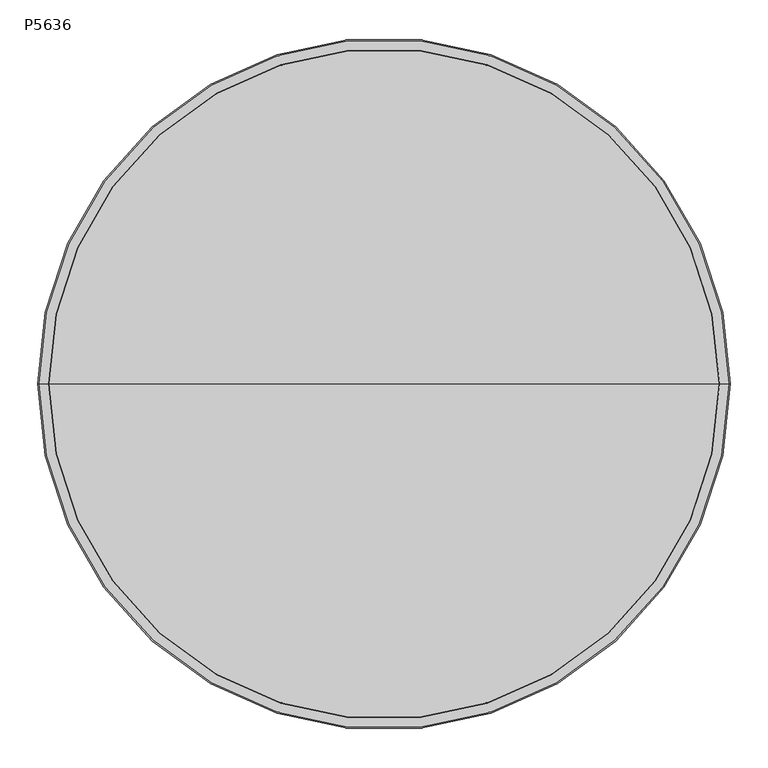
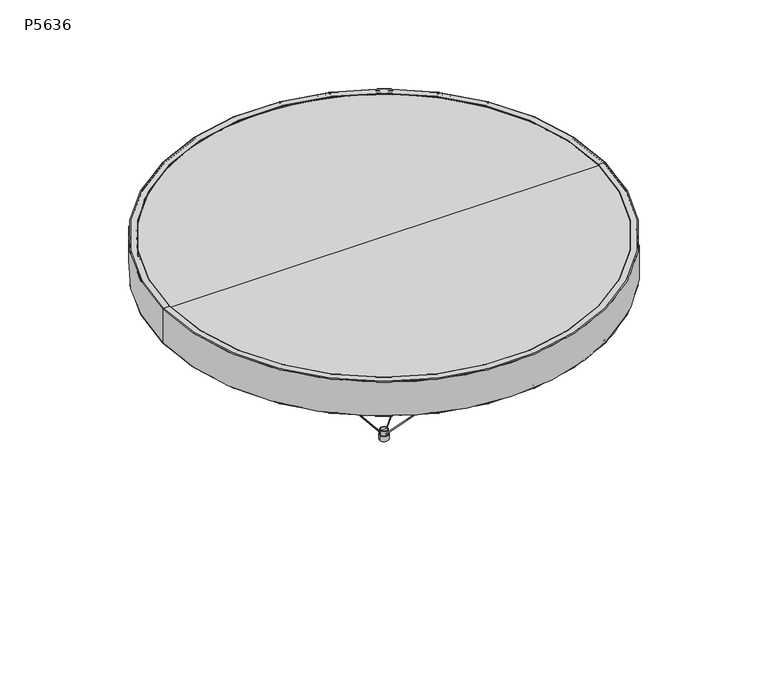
"""IFC4 building model written with IfcOpenShell, lengths in millimetres: light fixture geometry, Impact_Arch_Ltg-waf.r.3 : P5636."""

from ifc_helpers import new_model, si_unit, point, frame, origin, place, context, project, spatial, polyline, circle_curve, ellipse_curve, trimmed, outline, extrude, source, transform, mapped, element, save
from ifc_brep_helpers import plane_surface, cylinder_surface, revolved_surface, advanced_brep


def p5636_938da879(model_context):
    return source(origin(), model_context, "Body", "SolidModel", [
        extrude(outline(polyline([(-296.904285, 169.2257198), (-302.2657284, 172.2948892), (-301.5940433, 173.4682366), (-296.2325999, 170.3990672), (-296.904285, 169.2257198)])), frame((0.0, 0.0, 361.70042), z_axis=(0.0, 0.0, 1.0), x_axis=(1.0, 0.0, 0.0)), (0.0, 0.0, 1.0), 10.7885392),
        advanced_brep(
        [(-294.1449367, 168.3838782, 368.9999313), (-304.1306911, 174.100244, 368.9999313), (-304.1306911, 174.100244, 380.4180289), (-294.1449367, 168.3838782, 380.4180289), (-294.5817908, 168.6339562, 368.4965621), (-303.693837, 173.8501659, 368.4965621), (-299.1378139, 171.2420611, 368.4965621), (-299.1378139, 171.2420611, 380.4180289)],
        [
            (0, 1, circle_curve(frame((-299.1378139, 171.2420611, 368.9999313), z_axis=(0.0, 0.0, 1.0), x_axis=(-0.8678602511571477, 0.49680839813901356, 0.0)), 5.7530889)),
            (1, 2),
            (2, 3, circle_curve(frame((-299.1378139, 171.2420611, 380.4180289), z_axis=(0.0, 0.0, -1.0), x_axis=(-0.8678602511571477, 0.49680839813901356, 0.0)), 5.7530889)),
            (3, 0),
            (1, 0, circle_curve(frame((-299.1378139, 171.2420611, 368.9999313), z_axis=(0.0, 0.0, 1.0), x_axis=(-0.8678602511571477, 0.49680839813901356, 0.0)), 5.7530889)),
            (3, 2, circle_curve(frame((-299.1378139, 171.2420611, 380.4180289), z_axis=(0.0, 0.0, -1.0), x_axis=(-0.8678602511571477, 0.49680839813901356, 0.0)), 5.7530889)),
            (4, 5, circle_curve(frame((-299.1378139, 171.2420611, 368.4965621), z_axis=(0.0, 0.0, 1.0), x_axis=(-0.8678602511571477, 0.49680839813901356, 0.0)), 5.2497197)),
            (5, 1, circle_curve(frame((-303.693837, 173.8501659, 368.9999313), z_axis=(0.49680839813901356, 0.8678602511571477, 0.0), x_axis=(0.8678602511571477, -0.49680839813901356, 0.0)), 0.5033692)),
            (0, 4, circle_curve(frame((-294.5817908, 168.6339562, 368.9999313), z_axis=(0.49680839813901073, 0.8678602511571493, 0.0), x_axis=(-0.8678602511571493, 0.49680839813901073, 0.0)), 0.5033692)),
            (5, 4, circle_curve(frame((-299.1378139, 171.2420611, 368.4965621), z_axis=(0.0, 0.0, 1.0), x_axis=(-0.8678602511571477, 0.49680839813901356, 0.0)), 5.2497197)),
            (6, 5),
            (4, 6),
            (2, 7),
            (7, 3),
        ],
        [
            cylinder_surface(frame((-299.1378139, 171.2420611, 382.2748214), z_axis=(0.0, 0.0, -1.0), x_axis=(-0.8678602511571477, 0.49680839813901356, 0.0)), 5.7530889),
            revolved_surface(trimmed(ellipse_curve(frame((-303.693837, 173.8501659, 368.9999313), z_axis=(-0.49680839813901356, -0.8678602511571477, 0.0), x_axis=(0.8678602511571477, -0.49680839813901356, 0.0)), 0.5033692, 0.5033692), [point((-304.1306911, 174.100244, 368.9999313))], [point((-303.693837, 173.8501659, 368.4965621))], True, "CARTESIAN"), (-299.1378139, 171.2420611, 382.2748214), (0.0, 0.0, -1.0)),
            plane_surface(frame((-299.1378139, 171.2420611, 368.4965621), z_axis=(0.0, 0.0, -1.0), x_axis=(-0.8678602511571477, 0.49680839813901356, 0.0))),
            plane_surface(frame((-299.1378139, 171.2420611, 380.4180289), z_axis=(0.0, 0.0, 1.0), x_axis=(-0.8678602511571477, 0.49680839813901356, 0.0))),
        ],
        [
            (0, [[1, 2, 3, 4]]),
            (0, [[5, -4, 6, -2]]),
            (1, [[7, 8, -1, 9]]),
            (1, [[10, -9, -5, -8]]),
            (2, [[11, -7, 12]]),
            (2, [[-12, -10, -11]]),
            (3, [[-3, 13, 14]]),
            (3, [[-6, -14, -13]]),
        ],
    ),
        advanced_brep(
        [(-0.4909162, 0.281026, 14.2396458), (0.4909162, -0.281026, 15.3533386), (0.0, 0.0, 14.7964922), (-277.3987743, 158.7975029, 338.361012), (-276.4169522, 158.2354567, 339.4746931), (-276.9078632, 158.5164798, 338.9178526)],
        [
            (0, 1, circle_curve(frame((0.0, 0.0, 14.7964922), z_axis=(0.60883123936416, -0.3485267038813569, -0.7126385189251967), x_axis=(0.6184706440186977, -0.35404480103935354, 0.7015314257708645)), 0.7937583)),
            (1, 2),
            (2, 0),
            (1, 0, circle_curve(frame((0.0, 0.0, 14.7964922), z_axis=(0.60883123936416, -0.3485267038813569, -0.7126385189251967), x_axis=(0.6184706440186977, -0.35404480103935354, 0.7015314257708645)), 0.7937583)),
            (3, 4, circle_curve(frame((-276.9078632, 158.5164798, 338.9178526), z_axis=(0.60883123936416, -0.3485267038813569, -0.7126385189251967), x_axis=(0.6184706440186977, -0.35404480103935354, 0.7015314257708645)), 0.79375)),
            (4, 1),
            (0, 3),
            (4, 3, circle_curve(frame((-276.9078632, 158.5164798, 338.9178526), z_axis=(0.60883123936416, -0.3485267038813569, -0.7126385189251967), x_axis=(0.6184706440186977, -0.35404480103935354, 0.7015314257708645)), 0.79375)),
            (5, 4),
            (3, 5),
        ],
        [
            plane_surface(frame((0.0, 0.0, 14.7964922), z_axis=(0.60883123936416, -0.3485267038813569, -0.7126385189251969), x_axis=(0.6184706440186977, -0.35404480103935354, 0.7015314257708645))),
            cylinder_surface(frame((-380.1757258, 217.6323816, 459.7931491), z_axis=(-0.60883123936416, 0.3485267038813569, 0.7126385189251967), x_axis=(0.6184706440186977, -0.35404480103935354, 0.7015314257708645)), 0.79375),
            plane_surface(frame((-276.9078632, 158.5164798, 338.9178526), z_axis=(-0.60883123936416, 0.3485267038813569, 0.7126385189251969), x_axis=(0.6184706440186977, -0.35404480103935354, 0.7015314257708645))),
        ],
        [
            (0, [[1, 2, 3]]),
            (0, [[4, -3, -2]]),
            (1, [[5, 6, -1, 7]]),
            (1, [[8, -7, -4, -6]]),
            (2, [[9, -5, 10]]),
            (2, [[-10, -8, -9]]),
        ],
    ),
        advanced_brep(
        [(-278.0124132, 159.1487817, 337.6649613), (-275.8033133, 157.8841779, 340.1707438), (-276.9078632, 158.5164798, 338.9178526), (-282.8450111, 161.9152124, 343.3215295), (-280.6359113, 160.6506086, 345.8273121), (-281.7404612, 161.2829105, 344.5744208)],
        [
            (0, 1, circle_curve(frame((-276.9078632, 158.5164798, 338.9178526), z_axis=(0.6088312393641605, -0.34852670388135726, -0.712638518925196), x_axis=(0.6184706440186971, -0.35404480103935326, 0.7015314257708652)), 1.7859375)),
            (1, 2),
            (2, 0),
            (1, 0, circle_curve(frame((-276.9078632, 158.5164798, 338.9178526), z_axis=(0.6088312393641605, -0.34852670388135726, -0.712638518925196), x_axis=(0.6184706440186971, -0.35404480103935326, 0.7015314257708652)), 1.7859375)),
            (3, 4, circle_curve(frame((-281.7404612, 161.2829105, 344.5744208), z_axis=(0.6088312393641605, -0.34852670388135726, -0.712638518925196), x_axis=(0.6184706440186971, -0.35404480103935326, 0.7015314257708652)), 1.7859375)),
            (4, 1),
            (0, 3),
            (4, 3, circle_curve(frame((-281.7404612, 161.2829105, 344.5744208), z_axis=(0.6088312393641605, -0.34852670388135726, -0.712638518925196), x_axis=(0.6184706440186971, -0.35404480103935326, 0.7015314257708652)), 1.7859375)),
            (5, 4),
            (3, 5),
        ],
        [
            plane_surface(frame((-276.9078632, 158.5164798, 338.9178526), z_axis=(0.6088312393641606, -0.3485267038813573, -0.7126385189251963), x_axis=(0.6184706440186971, -0.35404480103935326, 0.7015314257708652))),
            cylinder_surface(frame((-362.9536305, 207.7735575, 439.6346427), z_axis=(-0.6088312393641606, 0.3485267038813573, 0.7126385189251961), x_axis=(0.6184706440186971, -0.35404480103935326, 0.7015314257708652)), 1.7859375),
            plane_surface(frame((-281.7404612, 161.2829105, 344.5744208), z_axis=(-0.6088312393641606, 0.3485267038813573, 0.7126385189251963), x_axis=(0.6184706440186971, -0.35404480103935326, 0.7015314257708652))),
        ],
        [
            (0, [[1, 2, 3]]),
            (0, [[4, -3, -2]]),
            (1, [[5, 6, -1, 7]]),
            (1, [[8, -7, -4, -6]]),
            (2, [[9, -5, 10]]),
            (2, [[-10, -8, -9]]),
        ],
    ),
        advanced_brep(
        [(-284.9313832, 163.1095604, 340.9549571), (-278.5495392, 159.4562606, 348.1938845), (-281.7404612, 161.2829105, 344.5744208), (-302.3287359, 173.068711, 361.3186028), (-295.9468919, 169.4154112, 368.5575302), (-299.1378139, 171.2420611, 364.9380665)],
        [
            (0, 1, circle_curve(frame((-281.7404612, 161.2829105, 344.5744208), z_axis=(0.6088312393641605, -0.34852670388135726, -0.712638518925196), x_axis=(0.6184706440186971, -0.3540448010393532, 0.7015314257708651)), 5.159375)),
            (1, 2),
            (2, 0),
            (1, 0, circle_curve(frame((-281.7404612, 161.2829105, 344.5744208), z_axis=(0.6088312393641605, -0.34852670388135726, -0.712638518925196), x_axis=(0.6184706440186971, -0.3540448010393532, 0.7015314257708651)), 5.159375)),
            (3, 4, circle_curve(frame((-299.1378139, 171.2420611, 364.9380665), z_axis=(0.6088312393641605, -0.34852670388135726, -0.712638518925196), x_axis=(0.6184706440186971, -0.3540448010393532, 0.7015314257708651)), 5.159375)),
            (4, 1),
            (0, 3),
            (4, 3, circle_curve(frame((-299.1378139, 171.2420611, 364.9380665), z_axis=(0.6088312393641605, -0.34852670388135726, -0.712638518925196), x_axis=(0.6184706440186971, -0.3540448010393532, 0.7015314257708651)), 5.159375)),
            (5, 4),
            (3, 5),
        ],
        [
            plane_surface(frame((-281.7404612, 161.2829105, 344.5744208), z_axis=(0.6088312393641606, -0.3485267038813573, -0.7126385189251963), x_axis=(0.6184706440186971, -0.35404480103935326, 0.7015314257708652))),
            cylinder_surface(frame((-269.0644376, 154.0264945, 329.7371028), z_axis=(-0.6088312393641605, 0.34852670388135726, 0.712638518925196), x_axis=(0.6184706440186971, -0.3540448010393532, 0.7015314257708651)), 5.159375),
            plane_surface(frame((-299.1378139, 171.2420611, 364.9380665), z_axis=(-0.6088312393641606, 0.3485267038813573, 0.7126385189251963), x_axis=(0.6184706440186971, -0.35404480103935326, 0.7015314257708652))),
        ],
        [
            (0, [[1, 2, 3]]),
            (0, [[4, -3, -2]]),
            (1, [[5, 6, -1, 7]]),
            (1, [[8, -7, -4, -6]]),
            (2, [[9, -5, 10]]),
            (2, [[-10, -8, -9]]),
        ],
    ),
        extrude(outline(polyline([(294.3688179, 173.5986685), (299.6960381, 176.726863), (300.3806409, 175.5610054), (295.0534207, 172.4328109), (294.3688179, 173.5986685)])), frame((0.0, 0.0, 361.70042), z_axis=(0.0, 0.0, 1.0), x_axis=(1.0, 0.0, 0.0)), (0.0, 0.0, 1.0), 10.7885392),
        advanced_brep(
        [(292.2673496, 171.6221738, 368.9999313), (302.1893629, 177.4484746, 368.9999313), (302.1893629, 177.4484746, 380.4180289), (292.2673496, 171.6221738, 380.4180289), (292.7014152, 171.8770613, 368.4965621), (301.7552973, 177.1935872, 368.4965621), (297.2283563, 174.5353242, 368.4965621), (297.2283563, 174.5353242, 380.4180289)],
        [
            (0, 1, circle_curve(frame((297.2283563, 174.5353242, 368.9999313), z_axis=(0.0, 0.0, 1.0), x_axis=(0.862320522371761, 0.5063628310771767, 0.0)), 5.7530889)),
            (1, 2),
            (2, 3, circle_curve(frame((297.2283563, 174.5353242, 380.4180289), z_axis=(0.0, 0.0, -1.0), x_axis=(0.862320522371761, 0.5063628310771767, 0.0)), 5.7530889)),
            (3, 0),
            (1, 0, circle_curve(frame((297.2283563, 174.5353242, 368.9999313), z_axis=(0.0, 0.0, 1.0), x_axis=(0.862320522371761, 0.5063628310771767, 0.0)), 5.7530889)),
            (3, 2, circle_curve(frame((297.2283563, 174.5353242, 380.4180289), z_axis=(0.0, 0.0, -1.0), x_axis=(0.862320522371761, 0.5063628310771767, 0.0)), 5.7530889)),
            (4, 5, circle_curve(frame((297.2283563, 174.5353242, 368.4965621), z_axis=(0.0, 0.0, 1.0), x_axis=(0.862320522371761, 0.5063628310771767, 0.0)), 5.2497197)),
            (5, 1, circle_curve(frame((301.7552973, 177.1935872, 368.9999313), z_axis=(0.5063628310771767, -0.862320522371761, 0.0), x_axis=(-0.862320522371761, -0.5063628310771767, 0.0)), 0.5033692)),
            (0, 4, circle_curve(frame((292.7014152, 171.8770613, 368.9999313), z_axis=(0.5063628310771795, -0.8623205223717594, 0.0), x_axis=(0.8623205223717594, 0.5063628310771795, 0.0)), 0.5033692)),
            (5, 4, circle_curve(frame((297.2283563, 174.5353242, 368.4965621), z_axis=(0.0, 0.0, 1.0), x_axis=(0.862320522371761, 0.5063628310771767, 0.0)), 5.2497197)),
            (6, 5),
            (4, 6),
            (2, 7),
            (7, 3),
        ],
        [
            cylinder_surface(frame((297.2283563, 174.5353242, 382.2748214), z_axis=(0.0, 0.0, -1.0), x_axis=(0.862320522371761, 0.5063628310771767, 0.0)), 5.7530889),
            revolved_surface(trimmed(ellipse_curve(frame((301.7552973, 177.1935872, 368.9999313), z_axis=(-0.5063628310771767, 0.862320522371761, 0.0), x_axis=(-0.862320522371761, -0.5063628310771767, 0.0)), 0.5033692, 0.5033692), [point((302.1893629, 177.4484746, 368.9999313))], [point((301.7552973, 177.1935872, 368.4965621))], True, "CARTESIAN"), (297.2283563, 174.5353242, 382.2748214), (0.0, 0.0, -1.0)),
            plane_surface(frame((297.2283563, 174.5353242, 368.4965621), z_axis=(0.0, 0.0, -1.0000000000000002), x_axis=(0.862320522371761, 0.5063628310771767, 0.0))),
            plane_surface(frame((297.2283563, 174.5353242, 380.4180289), z_axis=(0.0, 0.0, 1.0000000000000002), x_axis=(0.862320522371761, 0.5063628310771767, 0.0))),
        ],
        [
            (0, [[1, 2, 3, 4]]),
            (0, [[5, -4, 6, -2]]),
            (1, [[7, 8, -1, 9]]),
            (1, [[10, -9, -5, -8]]),
            (2, [[11, -7, 12]]),
            (2, [[-12, -10, -11]]),
            (3, [[-3, 13, 14]]),
            (3, [[-6, -14, -13]]),
        ],
    ),
        advanced_brep(
        [(0.4877826, 0.2864306, 14.2396458), (-0.4877826, -0.2864306, 15.3533386), (0.0, 0.0, 14.7964922), (275.6280814, 161.8514369, 338.361012), (274.6525265, 161.2785817, 339.4746931), (275.1403039, 161.5650093, 338.9178526)],
        [
            (0, 1, circle_curve(frame((0.0, 0.0, 14.7964922), z_axis=(-0.6049449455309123, -0.35522943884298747, -0.7126385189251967), x_axis=(-0.6145228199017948, -0.3608536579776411, 0.7015314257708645)), 0.7937583)),
            (1, 2),
            (2, 0),
            (1, 0, circle_curve(frame((0.0, 0.0, 14.7964922), z_axis=(-0.6049449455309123, -0.35522943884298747, -0.7126385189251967), x_axis=(-0.6145228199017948, -0.3608536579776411, 0.7015314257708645)), 0.7937583)),
            (3, 4, circle_curve(frame((275.1403039, 161.5650093, 338.9178526), z_axis=(-0.6049449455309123, -0.35522943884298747, -0.7126385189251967), x_axis=(-0.6145228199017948, -0.3608536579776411, 0.7015314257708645)), 0.79375)),
            (4, 1),
            (0, 3),
            (4, 3, circle_curve(frame((275.1403039, 161.5650093, 338.9178526), z_axis=(-0.6049449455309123, -0.35522943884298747, -0.7126385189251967), x_axis=(-0.6145228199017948, -0.3608536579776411, 0.7015314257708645)), 0.79375)),
            (5, 4),
            (3, 5),
        ],
        [
            plane_surface(frame((0.0, 0.0, 14.7964922), z_axis=(-0.6049449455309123, -0.35522943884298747, -0.7126385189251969), x_axis=(-0.6145228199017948, -0.3608536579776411, 0.7015314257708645))),
            cylinder_surface(frame((377.7489867, 221.817806, 459.7931491), z_axis=(0.6049449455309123, 0.35522943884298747, 0.7126385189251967), x_axis=(-0.6145228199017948, -0.3608536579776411, 0.7015314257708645)), 0.79375),
            plane_surface(frame((275.1403039, 161.5650093, 338.9178526), z_axis=(0.6049449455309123, 0.35522943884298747, 0.7126385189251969), x_axis=(-0.6145228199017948, -0.3608536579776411, 0.7015314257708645))),
        ],
        [
            (0, [[1, 2, 3]]),
            (0, [[4, -3, -2]]),
            (1, [[5, 6, -1, 7]]),
            (1, [[8, -7, -4, -6]]),
            (2, [[9, -5, 10]]),
            (2, [[-10, -8, -9]]),
        ],
    ),
        advanced_brep(
        [(276.2378033, 162.2094714, 337.6649613), (274.0428046, 160.9205473, 340.1707438), (275.1403039, 161.5650093, 338.9178526), (281.0395538, 165.0291051, 343.3215295), (278.8445551, 163.7401809, 345.8273121), (279.9420545, 164.384643, 344.5744208)],
        [
            (0, 1, circle_curve(frame((275.1403039, 161.5650093, 338.9178526), z_axis=(-0.6049449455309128, -0.3552294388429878, -0.712638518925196), x_axis=(-0.6145228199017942, -0.3608536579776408, 0.7015314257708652)), 1.7859375)),
            (1, 2),
            (2, 0),
            (1, 0, circle_curve(frame((275.1403039, 161.5650093, 338.9178526), z_axis=(-0.6049449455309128, -0.3552294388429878, -0.712638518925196), x_axis=(-0.6145228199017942, -0.3608536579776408, 0.7015314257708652)), 1.7859375)),
            (3, 4, circle_curve(frame((279.9420545, 164.384643, 344.5744208), z_axis=(-0.6049449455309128, -0.3552294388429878, -0.712638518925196), x_axis=(-0.6145228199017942, -0.3608536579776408, 0.7015314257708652)), 1.7859375)),
            (4, 1),
            (0, 3),
            (4, 3, circle_curve(frame((279.9420545, 164.384643, 344.5744208), z_axis=(-0.6049449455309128, -0.3552294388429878, -0.712638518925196), x_axis=(-0.6145228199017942, -0.3608536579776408, 0.7015314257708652)), 1.7859375)),
            (5, 4),
            (3, 5),
        ],
        [
            plane_surface(frame((275.1403039, 161.5650093, 338.9178526), z_axis=(-0.6049449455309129, -0.35522943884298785, -0.7126385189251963), x_axis=(-0.6145228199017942, -0.3608536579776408, 0.7015314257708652))),
            cylinder_surface(frame((360.6368235, 211.7693807, 439.6346427), z_axis=(0.6049449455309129, 0.35522943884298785, 0.7126385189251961), x_axis=(-0.6145228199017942, -0.3608536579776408, 0.7015314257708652)), 1.7859375),
            plane_surface(frame((279.9420545, 164.384643, 344.5744208), z_axis=(0.6049449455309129, 0.35522943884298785, 0.7126385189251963), x_axis=(-0.6145228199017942, -0.3608536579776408, 0.7015314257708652))),
        ],
        [
            (0, [[1, 2, 3]]),
            (0, [[4, -3, -2]]),
            (1, [[5, 6, -1, 7]]),
            (1, [[8, -7, -4, -6]]),
            (2, [[9, -5, 10]]),
            (2, [[-10, -8, -9]]),
        ],
    ),
        advanced_brep(
        [(283.1126081, 166.2464224, 340.9549571), (276.7715008, 162.5228637, 348.1938845), (279.9420545, 164.384643, 344.5744208), (300.3989099, 176.3971036, 361.3186028), (294.0578026, 172.6735449, 368.5575302), (297.2283563, 174.5353242, 364.9380665)],
        [
            (0, 1, circle_curve(frame((279.9420545, 164.384643, 344.5744208), z_axis=(-0.6049449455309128, -0.3552294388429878, -0.712638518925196), x_axis=(-0.6145228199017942, -0.36085365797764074, 0.7015314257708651)), 5.159375)),
            (1, 2),
            (2, 0),
            (1, 0, circle_curve(frame((279.9420545, 164.384643, 344.5744208), z_axis=(-0.6049449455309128, -0.3552294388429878, -0.712638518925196), x_axis=(-0.6145228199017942, -0.36085365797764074, 0.7015314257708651)), 5.159375)),
            (3, 4, circle_curve(frame((297.2283563, 174.5353242, 364.9380665), z_axis=(-0.6049449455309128, -0.3552294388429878, -0.712638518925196), x_axis=(-0.6145228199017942, -0.36085365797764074, 0.7015314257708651)), 5.159375)),
            (4, 1),
            (0, 3),
            (4, 3, circle_curve(frame((297.2283563, 174.5353242, 364.9380665), z_axis=(-0.6049449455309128, -0.3552294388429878, -0.712638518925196), x_axis=(-0.6145228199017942, -0.36085365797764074, 0.7015314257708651)), 5.159375)),
            (5, 4),
            (3, 5),
        ],
        [
            plane_surface(frame((279.9420545, 164.384643, 344.5744208), z_axis=(-0.6049449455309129, -0.35522943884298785, -0.7126385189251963), x_axis=(-0.6145228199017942, -0.3608536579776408, 0.7015314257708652))),
            cylinder_surface(frame((267.3469445, 156.9886744, 329.7371028), z_axis=(0.6049449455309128, 0.3552294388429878, 0.712638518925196), x_axis=(-0.6145228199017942, -0.36085365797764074, 0.7015314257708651)), 5.159375),
            plane_surface(frame((297.2283563, 174.5353242, 364.9380665), z_axis=(0.6049449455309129, 0.35522943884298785, 0.7126385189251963), x_axis=(-0.6145228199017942, -0.3608536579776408, 0.7015314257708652))),
        ],
        [
            (0, [[1, 2, 3]]),
            (0, [[4, -3, -2]]),
            (1, [[5, 6, -1, 7]]),
            (1, [[8, -7, -4, -6]]),
            (2, [[9, -5, 10]]),
            (2, [[-10, -8, -9]]),
        ],
    ),
        extrude(outline(polyline([(0.6402665, -341.7441861), (0.6402665, -347.9219589), (-0.7117338, -347.9219589), (-0.7117338, -341.7441861), (0.6402665, -341.7441861)])), frame((0.0, 0.0, 361.70042), z_axis=(0.0, 0.0, 1.0), x_axis=(1.0, 0.0, 0.0)), (0.0, 0.0, 1.0), 10.7885392),
        advanced_brep(
        [(0.0, -338.9312234, 368.9999313), (0.0, -350.4374013, 368.9999313), (0.0, -350.4374013, 380.4180289), (0.0, -338.9312234, 380.4180289), (0.0, -339.4345926, 368.4965621), (0.0, -349.9340321, 368.4965621), (0.0, -344.6843123, 368.4965621), (0.0, -344.6843123, 380.4180289)],
        [
            (0, 1, circle_curve(frame((0.0, -344.6843123, 368.9999313), z_axis=(0.0, 0.0, 1.0), x_axis=(0.0, -1.0, 0.0)), 5.7530889)),
            (1, 2),
            (2, 3, circle_curve(frame((0.0, -344.6843123, 380.4180289), z_axis=(0.0, 0.0, -1.0), x_axis=(0.0, -1.0, 0.0)), 5.7530889)),
            (3, 0),
            (1, 0, circle_curve(frame((0.0, -344.6843123, 368.9999313), z_axis=(0.0, 0.0, 1.0), x_axis=(0.0, -1.0, 0.0)), 5.7530889)),
            (3, 2, circle_curve(frame((0.0, -344.6843123, 380.4180289), z_axis=(0.0, 0.0, -1.0), x_axis=(0.0, -1.0, 0.0)), 5.7530889)),
            (4, 5, circle_curve(frame((0.0, -344.6843123, 368.4965621), z_axis=(0.0, 0.0, 1.0), x_axis=(0.0, -1.0, 0.0)), 5.2497197)),
            (5, 1, circle_curve(frame((0.0, -349.9340321, 368.9999313), z_axis=(-1.0, 0.0, 0.0), x_axis=(0.0, 1.0, 0.0)), 0.5033692)),
            (0, 4, circle_curve(frame((0.0, -339.4345926, 368.9999313), z_axis=(-1.0, 0.0, 0.0), x_axis=(0.0, -1.0, 0.0)), 0.5033692)),
            (5, 4, circle_curve(frame((0.0, -344.6843123, 368.4965621), z_axis=(0.0, 0.0, 1.0), x_axis=(0.0, -1.0, 0.0)), 5.2497197)),
            (6, 5),
            (4, 6),
            (2, 7),
            (7, 3),
        ],
        [
            cylinder_surface(frame((0.0, -344.6843123, 382.2748214), z_axis=(0.0, 0.0, -1.0), x_axis=(0.0, -1.0, 0.0)), 5.7530889),
            revolved_surface(trimmed(ellipse_curve(frame((0.0, -349.9340321, 368.9999313), z_axis=(1.0, 0.0, 0.0), x_axis=(0.0, 1.0, 0.0)), 0.5033692, 0.5033692), [point((0.0, -350.4374013, 368.9999313))], [point((0.0, -349.9340321, 368.4965621))], True, "CARTESIAN"), (0.0, -344.6843123, 382.2748214), (0.0, 0.0, -1.0)),
            plane_surface(frame((0.0, -344.6843123, 368.4965621), z_axis=(0.0, 0.0, -1.0), x_axis=(0.0, -1.0, 0.0))),
            plane_surface(frame((0.0, -344.6843123, 380.4180289), z_axis=(0.0, 0.0, 1.0), x_axis=(0.0, -1.0, 0.0))),
        ],
        [
            (0, [[1, 2, 3, 4]]),
            (0, [[5, -4, 6, -2]]),
            (1, [[7, 8, -1, 9]]),
            (1, [[10, -9, -5, -8]]),
            (2, [[11, -7, 12]]),
            (2, [[-12, -10, -11]]),
            (3, [[-3, 13, 14]]),
            (3, [[-6, -14, -13]]),
        ],
    ),
        advanced_brep(
        [(0.0, -0.5656628, 14.2396458), (0.0, 0.5656628, 15.3533386), (0.0, 0.0, 14.7964922), (0.0, -319.635303, 338.361012), (0.0, -318.5039893, 339.4746931), (0.0, -319.0696462, 338.9178526)],
        [
            (0, 1, circle_curve(frame((0.0, 0.0, 14.7964922), z_axis=(0.0, 0.7015314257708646, -0.7126385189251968), x_axis=(0.0, 0.7126385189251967, 0.7015314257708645)), 0.7937583)),
            (1, 2),
            (2, 0),
            (1, 0, circle_curve(frame((0.0, 0.0, 14.7964922), z_axis=(0.0, 0.7015314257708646, -0.7126385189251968), x_axis=(0.0, 0.7126385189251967, 0.7015314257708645)), 0.7937583)),
            (3, 4, circle_curve(frame((0.0, -319.0696462, 338.9178526), z_axis=(0.0, 0.7015314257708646, -0.7126385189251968), x_axis=(0.0, 0.7126385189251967, 0.7015314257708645)), 0.79375)),
            (4, 1),
            (0, 3),
            (4, 3, circle_curve(frame((0.0, -319.0696462, 338.9178526), z_axis=(0.0, 0.7015314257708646, -0.7126385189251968), x_axis=(0.0, 0.7126385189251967, 0.7015314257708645)), 0.79375)),
            (5, 4),
            (3, 5),
        ],
        [
            plane_surface(frame((0.0, 0.0, 14.7964922), z_axis=(0.0, 0.7015314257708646, -0.7126385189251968), x_axis=(0.0, 0.7126385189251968, 0.7015314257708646))),
            cylinder_surface(frame((0.0, -438.0609957, 459.7931491), z_axis=(0.0, -0.7015314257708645, 0.7126385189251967), x_axis=(0.0, 0.7126385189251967, 0.7015314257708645)), 0.79375),
            plane_surface(frame((0.0, -319.0696462, 338.9178526), z_axis=(0.0, -0.7015314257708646, 0.7126385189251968), x_axis=(0.0, 0.7126385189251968, 0.7015314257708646))),
        ],
        [
            (0, [[1, 2, 3]]),
            (0, [[4, -3, -2]]),
            (1, [[5, 6, -1, 7]]),
            (1, [[8, -7, -4, -6]]),
            (2, [[9, -5, 10]]),
            (2, [[-10, -8, -9]]),
        ],
    ),
        advanced_brep(
        [(0.0, -320.342374, 337.6649613), (0.0, -317.7969183, 340.1707438), (0.0, -319.0696462, 338.9178526), (0.0, -325.9107797, 343.3215295), (0.0, -323.365324, 345.8273121), (0.0, -324.6380518, 344.5744208)],
        [
            (0, 1, circle_curve(frame((0.0, -319.0696462, 338.9178526), z_axis=(0.0, 0.7015314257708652, -0.7126385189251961), x_axis=(0.0, 0.7126385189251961, 0.7015314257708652)), 1.7859375)),
            (1, 2),
            (2, 0),
            (1, 0, circle_curve(frame((0.0, -319.0696462, 338.9178526), z_axis=(0.0, 0.7015314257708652, -0.7126385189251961), x_axis=(0.0, 0.7126385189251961, 0.7015314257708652)), 1.7859375)),
            (3, 4, circle_curve(frame((0.0, -324.6380518, 344.5744208), z_axis=(0.0, 0.7015314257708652, -0.7126385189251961), x_axis=(0.0, 0.7126385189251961, 0.7015314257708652)), 1.7859375)),
            (4, 1),
            (0, 3),
            (4, 3, circle_curve(frame((0.0, -324.6380518, 344.5744208), z_axis=(0.0, 0.7015314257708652, -0.7126385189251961), x_axis=(0.0, 0.7126385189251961, 0.7015314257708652)), 1.7859375)),
            (5, 4),
            (3, 5),
        ],
        [
            plane_surface(frame((0.0, -319.0696462, 338.9178526), z_axis=(0.0, 0.7015314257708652, -0.7126385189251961), x_axis=(0.0, 0.7126385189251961, 0.7015314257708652))),
            cylinder_surface(frame((0.0, -418.2166772, 439.6346427), z_axis=(0.0, -0.7015314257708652, 0.7126385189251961), x_axis=(0.0, 0.7126385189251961, 0.7015314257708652)), 1.7859375),
            plane_surface(frame((0.0, -324.6380518, 344.5744208), z_axis=(0.0, -0.7015314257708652, 0.7126385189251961), x_axis=(0.0, 0.7126385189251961, 0.7015314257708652))),
        ],
        [
            (0, [[1, 2, 3]]),
            (0, [[4, -3, -2]]),
            (1, [[5, 6, -1, 7]]),
            (1, [[8, -7, -4, -6]]),
            (2, [[9, -5, 10]]),
            (2, [[-10, -8, -9]]),
        ],
    ),
        advanced_brep(
        [(0.0, -328.3148212, 340.9549571), (0.0, -320.9612825, 348.1938845), (0.0, -324.6380518, 344.5744208), (0.0, -348.3610817, 361.3186028), (0.0, -341.007543, 368.5575302), (0.0, -344.6843123, 364.9380665)],
        [
            (0, 1, circle_curve(frame((0.0, -324.6380518, 344.5744208), z_axis=(0.0, 0.7015314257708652, -0.7126385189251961), x_axis=(0.0, 0.712638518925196, 0.7015314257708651)), 5.159375)),
            (1, 2),
            (2, 0),
            (1, 0, circle_curve(frame((0.0, -324.6380518, 344.5744208), z_axis=(0.0, 0.7015314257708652, -0.7126385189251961), x_axis=(0.0, 0.712638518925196, 0.7015314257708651)), 5.159375)),
            (3, 4, circle_curve(frame((0.0, -344.6843123, 364.9380665), z_axis=(0.0, 0.7015314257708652, -0.7126385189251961), x_axis=(0.0, 0.712638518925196, 0.7015314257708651)), 5.159375)),
            (4, 1),
            (0, 3),
            (4, 3, circle_curve(frame((0.0, -344.6843123, 364.9380665), z_axis=(0.0, 0.7015314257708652, -0.7126385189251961), x_axis=(0.0, 0.712638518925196, 0.7015314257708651)), 5.159375)),
            (5, 4),
            (3, 5),
        ],
        [
            plane_surface(frame((0.0, -324.6380518, 344.5744208), z_axis=(0.0, 0.7015314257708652, -0.7126385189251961), x_axis=(0.0, 0.7126385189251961, 0.7015314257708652))),
            cylinder_surface(frame((0.0, -310.0319864, 329.7371028), z_axis=(0.0, -0.7015314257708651, 0.712638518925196), x_axis=(0.0, 0.712638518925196, 0.7015314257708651)), 5.159375),
            plane_surface(frame((0.0, -344.6843123, 364.9380665), z_axis=(0.0, -0.7015314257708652, 0.7126385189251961), x_axis=(0.0, 0.7126385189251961, 0.7015314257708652))),
        ],
        [
            (0, [[1, 2, 3]]),
            (0, [[4, -3, -2]]),
            (1, [[5, 6, -1, 7]]),
            (1, [[8, -7, -4, -6]]),
            (2, [[9, -5, 10]]),
            (2, [[-10, -8, -9]]),
        ],
    ),
        advanced_brep(
        [(-454.6242615, 0.0, 381.762), (454.6242615, 0.0, 381.762), (454.6242615, 0.0, 379.6538), (-454.6242615, 0.0, 379.6538), (0.0, 0.0, 379.6538), (0.0, 0.0, 381.762)],
        [
            (0, 1, circle_curve(frame((0.0, 0.0, 381.762), z_axis=(0.0, 0.0, -1.0), x_axis=(1.0, 0.0, 0.0)), 454.6242615)),
            (1, 2),
            (2, 3, circle_curve(frame((0.0, 0.0, 379.6538), z_axis=(0.0, 0.0, 1.0), x_axis=(1.0, 0.0, 0.0)), 454.6242615)),
            (3, 0),
            (1, 0, circle_curve(frame((0.0, 0.0, 381.762), z_axis=(0.0, 0.0, -1.0), x_axis=(1.0, 0.0, 0.0)), 454.6242615)),
            (3, 2, circle_curve(frame((0.0, 0.0, 379.6538), z_axis=(0.0, 0.0, 1.0), x_axis=(1.0, 0.0, 0.0)), 454.6242615)),
            (2, 4),
            (4, 3),
            (5, 1),
            (0, 5),
        ],
        [
            cylinder_surface(frame((0.0, 0.0, 382.8788161), z_axis=(0.0, 0.0, 1.0), x_axis=(1.0, 0.0, 0.0)), 454.6242615),
            plane_surface(frame((0.0, 0.0, 379.6538), z_axis=(0.0, 0.0, -1.0), x_axis=(1.0, 0.0, 0.0))),
            plane_surface(frame((0.0, 0.0, 381.762), z_axis=(0.0, 0.0, 1.0), x_axis=(1.0, 0.0, 0.0))),
        ],
        [
            (0, [[1, 2, 3, 4]]),
            (0, [[5, -4, 6, -2]]),
            (1, [[-3, 7, 8]]),
            (1, [[-6, -8, -7]]),
            (2, [[9, -1, 10]]),
            (2, [[-10, -5, -9]]),
        ],
    ),
        advanced_brep(
        [(-444.696004, 0.0, 449.326), (444.696004, 0.0, 449.326), (444.696004, 0.0, 446.3288), (-444.696004, 0.0, 446.3288), (0.0, 0.0, 449.326), (0.0, 0.0, 446.3288)],
        [
            (0, 1, circle_curve(frame((0.0, 0.0, 449.326), z_axis=(0.0, 0.0, -1.0), x_axis=(1.0, 0.0, 0.0)), 444.696004)),
            (1, 2),
            (2, 3, circle_curve(frame((0.0, 0.0, 446.3288), z_axis=(0.0, 0.0, 1.0), x_axis=(1.0, 0.0, 0.0)), 444.696004)),
            (3, 0),
            (1, 0, circle_curve(frame((0.0, 0.0, 449.326), z_axis=(0.0, 0.0, -1.0), x_axis=(1.0, 0.0, 0.0)), 444.696004)),
            (3, 2, circle_curve(frame((0.0, 0.0, 446.3288), z_axis=(0.0, 0.0, 1.0), x_axis=(1.0, 0.0, 0.0)), 444.696004)),
            (4, 1),
            (0, 4),
            (2, 5),
            (5, 3),
        ],
        [
            cylinder_surface(frame((0.0, 0.0, 458.7870462), z_axis=(0.0, 0.0, 1.0), x_axis=(1.0, 0.0, 0.0)), 444.696004),
            plane_surface(frame((0.0, 0.0, 449.326), z_axis=(0.0, 0.0, 1.0), x_axis=(1.0, 0.0, 0.0))),
            plane_surface(frame((0.0, 0.0, 446.3288), z_axis=(0.0, 0.0, -1.0), x_axis=(1.0, 0.0, 0.0))),
        ],
        [
            (0, [[1, 2, 3, 4]]),
            (0, [[5, -4, 6, -2]]),
            (1, [[7, -1, 8]]),
            (1, [[-8, -5, -7]]),
            (2, [[-3, 9, 10]]),
            (2, [[-6, -10, -9]]),
        ],
    ),
        advanced_brep(
        [(-300.0172196, 0.0, 379.1323751), (300.0172196, 0.0, 379.1323751), (301.6709682, 0.0, 379.6538), (-301.6709682, 0.0, 379.6538), (-256.6098362, 0.0, 348.7381979), (256.6098362, 0.0, 348.7381979), (-255.0912831, 0.0, 348.2594), (255.0912831, 0.0, 348.2594), (0.0, 0.0, 348.2594), (-255.5511841, 0.0, 346.6338), (255.5511841, 0.0, 346.6338), (0.0, 0.0, 346.6338), (-257.2053499, 0.0, 347.1553565), (257.2053499, 0.0, 347.1553565), (-300.8404931, 0.0, 377.7090127), (300.8404931, 0.0, 377.7090127), (-301.8528259, 0.0, 378.0282), (301.8528259, 0.0, 378.0282), (-314.325, 0.0, 378.0282), (314.325, 0.0, 378.0282), (-314.325, 0.0, 379.6538), (314.325, 0.0, 379.6538)],
        [
            (0, 1, circle_curve(frame((0.0, 0.0, 379.1323751), z_axis=(0.0, 0.0, -1.0), x_axis=(1.0, 0.0, 0.0)), 300.0172196)),
            (1, 2, circle_curve(frame((301.6709682, 0.0, 376.7705773), z_axis=(0.0, 1.0, 0.0), x_axis=(1.0, 0.0, 0.0)), 2.8832227)),
            (2, 3, circle_curve(frame((0.0, 0.0, 379.6538), z_axis=(0.0, 0.0, 1.0), x_axis=(1.0, 0.0, 0.0)), 301.6709682)),
            (3, 0, circle_curve(frame((-301.6709682, 0.0, 376.7705773), z_axis=(0.0, 1.0, 0.0), x_axis=(-1.0, 0.0, 0.0)), 2.8832227)),
            (1, 0, circle_curve(frame((0.0, 0.0, 379.1323751), z_axis=(0.0, 0.0, -1.0), x_axis=(1.0, 0.0, 0.0)), 300.0172196)),
            (3, 2, circle_curve(frame((0.0, 0.0, 379.6538), z_axis=(0.0, 0.0, 1.0), x_axis=(1.0, 0.0, 0.0)), 301.6709682)),
            (4, 5, circle_curve(frame((0.0, 0.0, 348.7381979), z_axis=(0.0, 0.0, -1.0), x_axis=(1.0, 0.0, 0.0)), 256.6098362)),
            (5, 1),
            (0, 4),
            (5, 4, circle_curve(frame((0.0, 0.0, 348.7381979), z_axis=(0.0, 0.0, -1.0), x_axis=(1.0, 0.0, 0.0)), 256.6098362)),
            (6, 7, circle_curve(frame((0.0, 0.0, 348.2594), z_axis=(0.0, 0.0, -1.0), x_axis=(1.0, 0.0, 0.0)), 255.0912831)),
            (7, 5, circle_curve(frame((255.0912831, 0.0, 350.9069165), z_axis=(0.0, -1.0, 0.0), x_axis=(1.0, 0.0, 0.0)), 2.6475165)),
            (4, 6, circle_curve(frame((-255.0912831, 0.0, 350.9069165), z_axis=(0.0, -1.0, 0.0), x_axis=(-1.0, 0.0, 0.0)), 2.6475165)),
            (7, 6, circle_curve(frame((0.0, 0.0, 348.2594), z_axis=(0.0, 0.0, -1.0), x_axis=(1.0, 0.0, 0.0)), 255.0912831)),
            (8, 7),
            (6, 8),
            (9, 10, circle_curve(frame((0.0, 0.0, 346.6338), z_axis=(0.0, 0.0, -1.0), x_axis=(1.0, 0.0, 0.0)), 255.5511841)),
            (10, 11),
            (11, 9),
            (10, 9, circle_curve(frame((0.0, 0.0, 346.6338), z_axis=(0.0, 0.0, -1.0), x_axis=(1.0, 0.0, 0.0)), 255.5511841)),
            (12, 13, circle_curve(frame((0.0, 0.0, 347.1553565), z_axis=(0.0, 0.0, -1.0), x_axis=(1.0, 0.0, 0.0)), 257.2053499)),
            (13, 10, circle_curve(frame((255.5511841, 0.0, 349.51775), z_axis=(0.0, 1.0, 0.0), x_axis=(1.0, 0.0, 0.0)), 2.88395)),
            (9, 12, circle_curve(frame((-255.5511841, 0.0, 349.51775), z_axis=(0.0, 1.0, 0.0), x_axis=(-1.0, 0.0, 0.0)), 2.88395)),
            (13, 12, circle_curve(frame((0.0, 0.0, 347.1553565), z_axis=(0.0, 0.0, -1.0), x_axis=(1.0, 0.0, 0.0)), 257.2053499)),
            (14, 15, circle_curve(frame((0.0, 0.0, 377.7090127), z_axis=(0.0, 0.0, -1.0), x_axis=(1.0, 0.0, 0.0)), 300.8404931)),
            (15, 13),
            (12, 14),
            (15, 14, circle_curve(frame((0.0, 0.0, 377.7090127), z_axis=(0.0, 0.0, -1.0), x_axis=(1.0, 0.0, 0.0)), 300.8404931)),
            (16, 17, circle_curve(frame((0.0, 0.0, 378.0282), z_axis=(0.0, 0.0, -1.0), x_axis=(1.0, 0.0, 0.0)), 301.8528259)),
            (17, 15, circle_curve(frame((301.8528259, 0.0, 376.2632517), z_axis=(0.0, -1.0, 0.0), x_axis=(1.0, 0.0, 0.0)), 1.7649483)),
            (14, 16, circle_curve(frame((-301.8528259, 0.0, 376.2632517), z_axis=(0.0, -1.0, 0.0), x_axis=(-1.0, 0.0, 0.0)), 1.7649483)),
            (17, 16, circle_curve(frame((0.0, 0.0, 378.0282), z_axis=(0.0, 0.0, -1.0), x_axis=(1.0, 0.0, 0.0)), 301.8528259)),
            (18, 19, circle_curve(frame((0.0, 0.0, 378.0282), z_axis=(0.0, 0.0, -1.0), x_axis=(1.0, 0.0, 0.0)), 314.325)),
            (19, 17),
            (16, 18),
            (19, 18, circle_curve(frame((0.0, 0.0, 378.0282), z_axis=(0.0, 0.0, -1.0), x_axis=(1.0, 0.0, 0.0)), 314.325)),
            (20, 21, circle_curve(frame((0.0, 0.0, 379.6538), z_axis=(0.0, 0.0, -1.0), x_axis=(1.0, 0.0, 0.0)), 314.325)),
            (21, 19),
            (18, 20),
            (21, 20, circle_curve(frame((0.0, 0.0, 379.6538), z_axis=(0.0, 0.0, -1.0), x_axis=(1.0, 0.0, 0.0)), 314.325)),
            (2, 21),
            (20, 3),
        ],
        [
            revolved_surface(trimmed(ellipse_curve(frame((301.6709682, 0.0, 376.7705773), z_axis=(0.0, -1.0, 0.0), x_axis=(1.0, 0.0, 0.0)), 2.8832227, 2.8832227), [point((301.6709682, 0.0, 379.6538))], [point((300.0172196, 0.0, 379.1323751))], True, "CARTESIAN"), (0.0, 0.0, 364.5535), (0.0, 0.0, 1.0)),
            revolved_surface(polyline([(300.0172196, 0.0, 379.1323751), (256.6098362, 0.0, 348.7381979)]), (0.0, 0.0, 364.5535), (0.0, 0.0, 1.0)),
            revolved_surface(trimmed(ellipse_curve(frame((255.0912831, 0.0, 350.9069165), z_axis=(0.0, 1.0, 0.0), x_axis=(1.0, 0.0, 0.0)), 2.6475165, 2.6475165), [point((256.6098362, 0.0, 348.7381979))], [point((255.0912831, 0.0, 348.2594))], True, "CARTESIAN"), (0.0, 0.0, 364.5535), (0.0, 0.0, 1.0)),
            plane_surface(frame((0.0, 0.0, 348.2594), z_axis=(0.0, 0.0, 1.0), x_axis=(1.0, 0.0, 0.0))),
            plane_surface(frame((0.0, 0.0, 346.6338), z_axis=(0.0, 0.0, -1.0), x_axis=(1.0, 0.0, 0.0))),
            revolved_surface(trimmed(ellipse_curve(frame((255.5511841, 0.0, 349.51775), z_axis=(0.0, -1.0, 0.0), x_axis=(1.0, 0.0, 0.0)), 2.88395, 2.88395), [point((255.5511841, 0.0, 346.6338))], [point((257.2053499, 0.0, 347.1553565))], True, "CARTESIAN"), (0.0, 0.0, 364.5535), (0.0, 0.0, 1.0)),
            revolved_surface(polyline([(257.2053499, 0.0, 347.1553565), (300.8404931, 0.0, 377.7090127)]), (0.0, 0.0, 364.5535), (0.0, 0.0, 1.0)),
            revolved_surface(trimmed(ellipse_curve(frame((301.8528259, 0.0, 376.2632517), z_axis=(0.0, 1.0, 0.0), x_axis=(1.0, 0.0, 0.0)), 1.7649483, 1.7649483), [point((300.8404931, 0.0, 377.7090127))], [point((301.8528259, 0.0, 378.0282))], True, "CARTESIAN"), (0.0, 0.0, 364.5535), (0.0, 0.0, 1.0)),
            plane_surface(frame((0.0, 0.0, 378.0282), z_axis=(0.0, 0.0, -1.0), x_axis=(1.0, 0.0, 0.0))),
            cylinder_surface(frame((0.0, 0.0, 364.5535), z_axis=(0.0, 0.0, 1.0), x_axis=(1.0, 0.0, 0.0)), 314.325),
            plane_surface(frame((0.0, 0.0, 379.6538), z_axis=(0.0, 0.0, 1.0), x_axis=(1.0, 0.0, 0.0))),
        ],
        [
            (0, [[1, 2, 3, 4]]),
            (0, [[5, -4, 6, -2]]),
            (1, [[7, 8, -1, 9]]),
            (1, [[10, -9, -5, -8]]),
            (2, [[11, 12, -7, 13]]),
            (2, [[14, -13, -10, -12]]),
            (3, [[15, -11, 16]]),
            (3, [[-16, -14, -15]]),
            (4, [[17, 18, 19]]),
            (4, [[20, -19, -18]]),
            (5, [[21, 22, -17, 23]]),
            (5, [[24, -23, -20, -22]]),
            (6, [[25, 26, -21, 27]]),
            (6, [[28, -27, -24, -26]]),
            (7, [[29, 30, -25, 31]]),
            (7, [[32, -31, -28, -30]]),
            (8, [[33, 34, -29, 35]]),
            (8, [[36, -35, -32, -34]]),
            (9, [[37, 38, -33, 39]]),
            (9, [[40, -39, -36, -38]]),
            (10, [[-3, 41, -37, 42]]),
            (10, [[-6, -42, -40, -41]]),
        ],
    ),
        advanced_brep(
        [(-454.0192171, 0.0, 449.3271471), (454.0192171, 0.0, 449.3271471), (443.1969575, 0.0, 449.3271471), (-443.1969575, 0.0, 449.3271471), (-454.6242615, 0.0, 448.7221027), (454.6242615, 0.0, 448.7221027), (-454.6242615, 0.0, 375.666), (454.6242615, 0.0, 375.666), (-455.8792663, 0.0, 375.666), (455.8792663, 0.0, 375.666), (-457.2, 0.0, 376.9867337), (457.2, 0.0, 376.9867337), (-457.2, 0.0, 450.5734421), (457.2, 0.0, 450.5734421), (-455.9074421, 0.0, 451.866), (455.9074421, 0.0, 451.866), (-443.1885371, 0.0, 451.866), (443.1885371, 0.0, 451.866), (-442.6906432, 0.0, 449.8334614), (442.6906432, 0.0, 449.8334614), (442.6906432, 0.0, 451.3681061), (-442.6906432, 0.0, 451.3681061)],
        [
            (0, 1, circle_curve(frame((0.0, 0.0, 449.3271471), z_axis=(0.0, 0.0, -1.0), x_axis=(1.0, 0.0, 0.0)), 454.0192171)),
            (1, 2),
            (2, 3, circle_curve(frame((0.0, 0.0, 449.3271471), z_axis=(0.0, 0.0, 1.0), x_axis=(1.0, 0.0, 0.0)), 443.1969575)),
            (3, 0),
            (1, 0, circle_curve(frame((0.0, 0.0, 449.3271471), z_axis=(0.0, 0.0, -1.0), x_axis=(1.0, 0.0, 0.0)), 454.0192171)),
            (3, 2, circle_curve(frame((0.0, 0.0, 449.3271471), z_axis=(0.0, 0.0, 1.0), x_axis=(1.0, 0.0, 0.0)), 443.1969575)),
            (4, 5, circle_curve(frame((0.0, 0.0, 448.7221027), z_axis=(0.0, 0.0, -1.0), x_axis=(1.0, 0.0, 0.0)), 454.6242615)),
            (5, 1, circle_curve(frame((454.0192171, 0.0, 448.7221027), z_axis=(0.0, -1.0, 0.0), x_axis=(1.0, 0.0, 0.0)), 0.6050444)),
            (0, 4, circle_curve(frame((-454.0192171, 0.0, 448.7221027), z_axis=(0.0, -1.0, 0.0), x_axis=(-1.0, 0.0, 0.0)), 0.6050444)),
            (5, 4, circle_curve(frame((0.0, 0.0, 448.7221027), z_axis=(0.0, 0.0, -1.0), x_axis=(1.0, 0.0, 0.0)), 454.6242615)),
            (6, 7, circle_curve(frame((0.0, 0.0, 375.666), z_axis=(0.0, 0.0, -1.0), x_axis=(1.0, 0.0, 0.0)), 454.6242615)),
            (7, 5),
            (4, 6),
            (7, 6, circle_curve(frame((0.0, 0.0, 375.666), z_axis=(0.0, 0.0, -1.0), x_axis=(1.0, 0.0, 0.0)), 454.6242615)),
            (8, 9, circle_curve(frame((0.0, 0.0, 375.666), z_axis=(0.0, 0.0, -1.0), x_axis=(1.0, 0.0, 0.0)), 455.8792663)),
            (9, 7),
            (6, 8),
            (9, 8, circle_curve(frame((0.0, 0.0, 375.666), z_axis=(0.0, 0.0, -1.0), x_axis=(1.0, 0.0, 0.0)), 455.8792663)),
            (10, 11, circle_curve(frame((0.0, 0.0, 376.9867337), z_axis=(0.0, 0.0, -1.0), x_axis=(1.0, 0.0, 0.0)), 457.2)),
            (11, 9, circle_curve(frame((455.8792663, 0.0, 376.9867337), z_axis=(0.0, 1.0, 0.0), x_axis=(1.0, 0.0, 0.0)), 1.3207337)),
            (8, 10, circle_curve(frame((-455.8792663, 0.0, 376.9867337), z_axis=(0.0, 1.0, 0.0), x_axis=(-1.0, 0.0, 0.0)), 1.3207337)),
            (11, 10, circle_curve(frame((0.0, 0.0, 376.9867337), z_axis=(0.0, 0.0, -1.0), x_axis=(1.0, 0.0, 0.0)), 457.2)),
            (12, 13, circle_curve(frame((0.0, 0.0, 450.5734421), z_axis=(0.0, 0.0, -1.0), x_axis=(1.0, 0.0, 0.0)), 457.2)),
            (13, 11),
            (10, 12),
            (13, 12, circle_curve(frame((0.0, 0.0, 450.5734421), z_axis=(0.0, 0.0, -1.0), x_axis=(1.0, 0.0, 0.0)), 457.2)),
            (14, 15, circle_curve(frame((0.0, 0.0, 451.866), z_axis=(0.0, 0.0, -1.0), x_axis=(1.0, 0.0, 0.0)), 455.9074421)),
            (15, 13, circle_curve(frame((455.9074421, 0.0, 450.5734421), z_axis=(0.0, 1.0, 0.0), x_axis=(1.0, 0.0, 0.0)), 1.2925579)),
            (12, 14, circle_curve(frame((-455.9074421, 0.0, 450.5734421), z_axis=(0.0, 1.0, 0.0), x_axis=(-1.0, 0.0, 0.0)), 1.2925579)),
            (15, 14, circle_curve(frame((0.0, 0.0, 451.866), z_axis=(0.0, 0.0, -1.0), x_axis=(1.0, 0.0, 0.0)), 455.9074421)),
            (16, 17, circle_curve(frame((0.0, 0.0, 451.866), z_axis=(0.0, 0.0, -1.0), x_axis=(1.0, 0.0, 0.0)), 443.1885371)),
            (17, 15),
            (14, 16),
            (17, 16, circle_curve(frame((0.0, 0.0, 451.866), z_axis=(0.0, 0.0, -1.0), x_axis=(1.0, 0.0, 0.0)), 443.1885371)),
            (18, 19, circle_curve(frame((0.0, 0.0, 449.8334614), z_axis=(0.0, 0.0, -1.0), x_axis=(1.0, 0.0, 0.0)), 442.6906432)),
            (19, 20),
            (20, 21, circle_curve(frame((0.0, 0.0, 451.3681061), z_axis=(0.0, 0.0, 1.0), x_axis=(1.0, 0.0, 0.0)), 442.6906432)),
            (21, 18),
            (19, 18, circle_curve(frame((0.0, 0.0, 449.8334614), z_axis=(0.0, 0.0, -1.0), x_axis=(1.0, 0.0, 0.0)), 442.6906432)),
            (21, 20, circle_curve(frame((0.0, 0.0, 451.3681061), z_axis=(0.0, 0.0, 1.0), x_axis=(1.0, 0.0, 0.0)), 442.6906432)),
            (2, 19, circle_curve(frame((443.1969575, 0.0, 449.8334614), z_axis=(0.0, 1.0, 0.0), x_axis=(1.0, 0.0, 0.0)), 0.5063143)),
            (18, 3, circle_curve(frame((-443.1969575, 0.0, 449.8334614), z_axis=(0.0, 1.0, 0.0), x_axis=(-1.0, 0.0, 0.0)), 0.5063143)),
            (20, 17, circle_curve(frame((443.1885371, 0.0, 451.3681061), z_axis=(0.0, 1.0, 0.0), x_axis=(1.0, 0.0, 0.0)), 0.4978939)),
            (16, 21, circle_curve(frame((-443.1885371, 0.0, 451.3681061), z_axis=(0.0, 1.0, 0.0), x_axis=(-1.0, 0.0, 0.0)), 0.4978939)),
        ],
        [
            plane_surface(frame((0.0, 0.0, 449.3271471), z_axis=(0.0, 0.0, -1.0), x_axis=(1.0, 0.0, 0.0))),
            revolved_surface(trimmed(ellipse_curve(frame((454.0192171, 0.0, 448.7221027), z_axis=(0.0, 1.0, 0.0), x_axis=(1.0, 0.0, 0.0)), 0.6050444, 0.6050444), [point((454.0192171, 0.0, 449.3271471))], [point((454.6242615, 0.0, 448.7221027))], True, "CARTESIAN"), (0.0, 0.0, 502.666), (0.0, 0.0, 1.0)),
            revolved_surface(polyline([(454.6242615, 0.0, 448.7221027), (454.6242615, 0.0, 375.666)]), (0.0, 0.0, 502.666), (0.0, 0.0, 1.0)),
            plane_surface(frame((0.0, 0.0, 375.666), z_axis=(0.0, 0.0, -1.0), x_axis=(1.0, 0.0, 0.0))),
            revolved_surface(trimmed(ellipse_curve(frame((455.8792663, 0.0, 376.9867337), z_axis=(0.0, -1.0, 0.0), x_axis=(1.0, 0.0, 0.0)), 1.3207337, 1.3207337), [point((455.8792663, 0.0, 375.666))], [point((457.2, 0.0, 376.9867337))], True, "CARTESIAN"), (0.0, 0.0, 502.666), (0.0, 0.0, 1.0)),
            cylinder_surface(frame((0.0, 0.0, 502.666), z_axis=(0.0, 0.0, 1.0), x_axis=(1.0, 0.0, 0.0)), 457.2),
            revolved_surface(trimmed(ellipse_curve(frame((455.9074421, 0.0, 450.5734421), z_axis=(0.0, -1.0, 0.0), x_axis=(1.0, 0.0, 0.0)), 1.2925579, 1.2925579), [point((457.2, 0.0, 450.5734421))], [point((455.9074421, 0.0, 451.866))], True, "CARTESIAN"), (0.0, 0.0, 502.666), (0.0, 0.0, 1.0)),
            plane_surface(frame((0.0, 0.0, 451.866), z_axis=(0.0, 0.0, 1.0), x_axis=(1.0, 0.0, 0.0))),
            revolved_surface(polyline([(442.6906432, 0.0, 451.3681061), (442.6906432, 0.0, 449.8334614)]), (0.0, 0.0, 502.666), (0.0, 0.0, 1.0)),
            revolved_surface(trimmed(ellipse_curve(frame((443.1969575, 0.0, 449.8334614), z_axis=(0.0, -1.0, 0.0), x_axis=(1.0, 0.0, 0.0)), 0.5063143, 0.5063143), [point((442.6906432, 0.0, 449.8334614))], [point((443.1969575, 0.0, 449.3271471))], True, "CARTESIAN"), (0.0, 0.0, 502.666), (0.0, 0.0, 1.0)),
            revolved_surface(trimmed(ellipse_curve(frame((443.1885371, 0.0, 451.3681061), z_axis=(0.0, -1.0, 0.0), x_axis=(1.0, 0.0, 0.0)), 0.4978939, 0.4978939), [point((443.1885371, 0.0, 451.866))], [point((442.6906432, 0.0, 451.3681061))], True, "CARTESIAN"), (0.0, 0.0, 502.666), (0.0, 0.0, 1.0)),
        ],
        [
            (0, [[1, 2, 3, 4]]),
            (0, [[5, -4, 6, -2]]),
            (1, [[7, 8, -1, 9]]),
            (1, [[10, -9, -5, -8]]),
            (2, [[11, 12, -7, 13]]),
            (2, [[14, -13, -10, -12]]),
            (3, [[15, 16, -11, 17]]),
            (3, [[18, -17, -14, -16]]),
            (4, [[19, 20, -15, 21]]),
            (4, [[22, -21, -18, -20]]),
            (5, [[23, 24, -19, 25]]),
            (5, [[26, -25, -22, -24]]),
            (6, [[27, 28, -23, 29]]),
            (6, [[30, -29, -26, -28]]),
            (7, [[31, 32, -27, 33]]),
            (7, [[34, -33, -30, -32]]),
            (8, [[35, 36, 37, 38]]),
            (8, [[39, -38, 40, -36]]),
            (9, [[-3, 41, -35, 42]]),
            (9, [[-6, -42, -39, -41]]),
            (10, [[-37, 43, -31, 44]]),
            (10, [[-40, -44, -34, -43]]),
        ],
    ),
        advanced_brep(
        [(-9.2456, 0.0, 7.366), (9.2456, 0.0, 7.366), (0.0, 0.0, 7.366), (-9.2456, 0.0, 17.849117), (9.2456, 0.0, 17.849117), (-8.730517, 0.0, 18.3642), (8.730517, 0.0, 18.3642), (-7.9030748, 0.0, 18.3642), (7.9030748, 0.0, 18.3642), (-7.9030748, 0.0, 27.4924806), (7.9030748, 0.0, 27.4924806), (-6.9575823, 0.0, 28.4379732), (6.9575823, 0.0, 28.4379732), (0.0, 0.0, 28.4379732)],
        [
            (0, 1, circle_curve(frame((0.0, 0.0, 7.366), z_axis=(0.0, 0.0, -1.0), x_axis=(1.0, 0.0, 0.0)), 9.2456)),
            (1, 2),
            (2, 0),
            (1, 0, circle_curve(frame((0.0, 0.0, 7.366), z_axis=(0.0, 0.0, -1.0), x_axis=(1.0, 0.0, 0.0)), 9.2456)),
            (3, 4, circle_curve(frame((0.0, 0.0, 17.849117), z_axis=(0.0, 0.0, -1.0), x_axis=(1.0, 0.0, 0.0)), 9.2456)),
            (4, 1),
            (0, 3),
            (4, 3, circle_curve(frame((0.0, 0.0, 17.849117), z_axis=(0.0, 0.0, -1.0), x_axis=(1.0, 0.0, 0.0)), 9.2456)),
            (5, 6, circle_curve(frame((0.0, 0.0, 18.3642), z_axis=(0.0, 0.0, -1.0), x_axis=(1.0, 0.0, 0.0)), 8.730517)),
            (6, 4, circle_curve(frame((8.730517, 0.0, 17.849117), z_axis=(0.0, 1.0, 0.0), x_axis=(1.0, 0.0, 0.0)), 0.515083)),
            (3, 5, circle_curve(frame((-8.730517, 0.0, 17.849117), z_axis=(0.0, 1.0, 0.0), x_axis=(-1.0, 0.0, 0.0)), 0.515083)),
            (6, 5, circle_curve(frame((0.0, 0.0, 18.3642), z_axis=(0.0, 0.0, -1.0), x_axis=(1.0, 0.0, 0.0)), 8.730517)),
            (7, 8, circle_curve(frame((0.0, 0.0, 18.3642), z_axis=(0.0, 0.0, -1.0), x_axis=(1.0, 0.0, 0.0)), 7.9030748)),
            (8, 6),
            (5, 7),
            (8, 7, circle_curve(frame((0.0, 0.0, 18.3642), z_axis=(0.0, 0.0, -1.0), x_axis=(1.0, 0.0, 0.0)), 7.9030748)),
            (9, 10, circle_curve(frame((0.0, 0.0, 27.4924806), z_axis=(0.0, 0.0, -1.0), x_axis=(1.0, 0.0, 0.0)), 7.9030748)),
            (10, 8),
            (7, 9),
            (10, 9, circle_curve(frame((0.0, 0.0, 27.4924806), z_axis=(0.0, 0.0, -1.0), x_axis=(1.0, 0.0, 0.0)), 7.9030748)),
            (11, 12, circle_curve(frame((0.0, 0.0, 28.4379732), z_axis=(0.0, 0.0, -1.0), x_axis=(1.0, 0.0, 0.0)), 6.9575823)),
            (12, 10, circle_curve(frame((6.9575823, 0.0, 27.4924806), z_axis=(0.0, 1.0, 0.0), x_axis=(1.0, 0.0, 0.0)), 0.9454926)),
            (9, 11, circle_curve(frame((-6.9575823, 0.0, 27.4924806), z_axis=(0.0, 1.0, 0.0), x_axis=(-1.0, 0.0, 0.0)), 0.9454926)),
            (12, 11, circle_curve(frame((0.0, 0.0, 28.4379732), z_axis=(0.0, 0.0, -1.0), x_axis=(1.0, 0.0, 0.0)), 6.9575823)),
            (13, 12),
            (11, 13),
        ],
        [
            plane_surface(frame((0.0, 0.0, 7.366), z_axis=(0.0, 0.0, -1.0), x_axis=(1.0, 0.0, 0.0))),
            cylinder_surface(frame((0.0, 0.0, -19.05), z_axis=(0.0, 0.0, 1.0), x_axis=(1.0, 0.0, 0.0)), 9.2456),
            revolved_surface(trimmed(ellipse_curve(frame((8.730517, 0.0, 17.849117), z_axis=(0.0, -1.0, 0.0), x_axis=(1.0, 0.0, 0.0)), 0.515083, 0.515083), [point((9.2456, 0.0, 17.849117))], [point((8.730517, 0.0, 18.3642))], True, "CARTESIAN"), (0.0, 0.0, -19.05), (0.0, 0.0, 1.0)),
            plane_surface(frame((0.0, 0.0, 18.3642), z_axis=(0.0, 0.0, 1.0), x_axis=(1.0, 0.0, 0.0))),
            cylinder_surface(frame((0.0, 0.0, -19.05), z_axis=(0.0, 0.0, 1.0), x_axis=(1.0, 0.0, 0.0)), 7.9030748),
            revolved_surface(trimmed(ellipse_curve(frame((6.9575823, 0.0, 27.4924806), z_axis=(0.0, -1.0, 0.0), x_axis=(1.0, 0.0, 0.0)), 0.9454926, 0.9454926), [point((7.9030748, 0.0, 27.4924806))], [point((6.9575823, 0.0, 28.4379732))], True, "CARTESIAN"), (0.0, 0.0, -19.05), (0.0, 0.0, 1.0)),
            plane_surface(frame((0.0, 0.0, 28.4379732), z_axis=(0.0, 0.0, 1.0), x_axis=(1.0, 0.0, 0.0))),
        ],
        [
            (0, [[1, 2, 3]]),
            (0, [[4, -3, -2]]),
            (1, [[5, 6, -1, 7]]),
            (1, [[8, -7, -4, -6]]),
            (2, [[9, 10, -5, 11]]),
            (2, [[12, -11, -8, -10]]),
            (3, [[13, 14, -9, 15]]),
            (3, [[16, -15, -12, -14]]),
            (4, [[17, 18, -13, 19]]),
            (4, [[20, -19, -16, -18]]),
            (5, [[21, 22, -17, 23]]),
            (5, [[24, -23, -20, -22]]),
            (6, [[25, -21, 26]]),
            (6, [[-26, -24, -25]]),
        ],
    ),
    ])


if __name__ == "__main__":
    model = new_model("IFC4")
    model_context = context("Model", 3, world=origin())
    ifc_project = project(units=[si_unit("LENGTHUNIT", "METRE", prefix="MILLI")], contexts=[model_context])
    site = spatial("IfcSite", under=ifc_project)
    building = spatial("IfcBuilding", under=site)
    placement = place(None, origin())
    p5636_shape = p5636_938da879(model_context)
    element("IfcLightFixture", 1, ObjectType="Impact_Arch_Ltg-waf.r.3 : P5636", at=placement, inside=building, context=model_context, shape_type="MappedRepresentation", body=[
        mapped(p5636_shape, transform((0.0, 0.0, 0.0), x_axis=(1.0, 0.0, 0.0), y_axis=(0.0, 1.0, 0.0), z_axis=(0.0, 0.0, 1.0))),
    ])
    save(model, "model.ifc")
